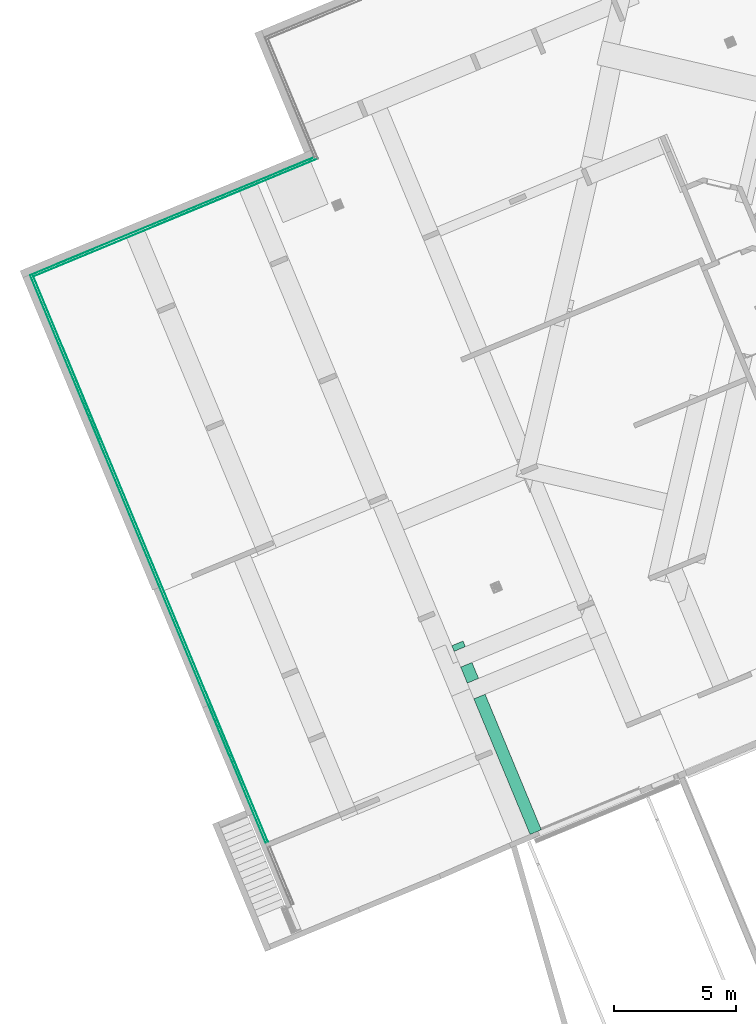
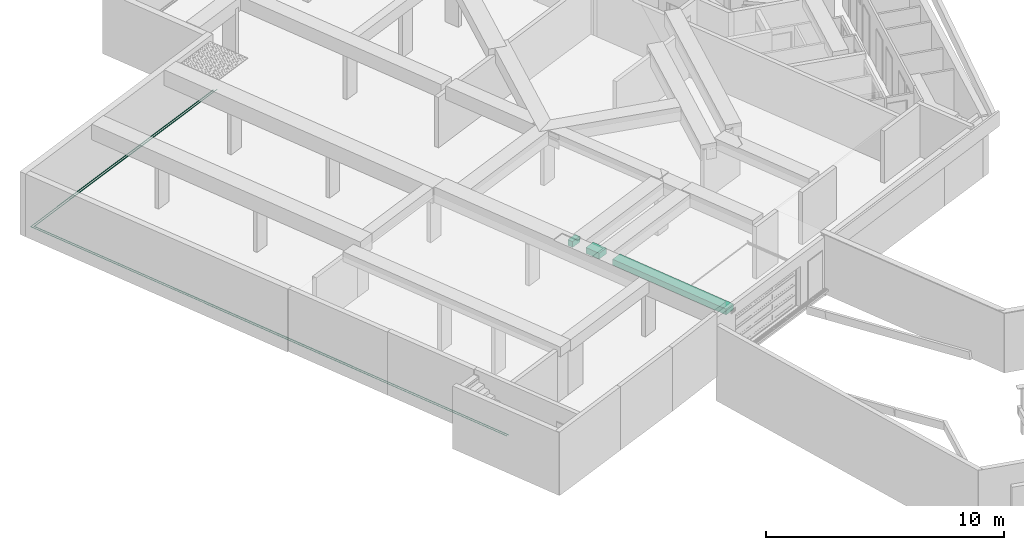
# One storey, part 16 of 20: 2 flow terminals, 1 distribution chamber element.
"""IFC2X3 building model written with IfcOpenShell, lengths in metres."""

from ifc_helpers import new_model, entity, si_unit, converted_unit, derived_unit, money_unit, direction, frame, origin_with_axes, place, context, subcontext, project, spatial, faceted_brep, material, type_object, element, save


model = new_model("IFC2X3")

# Units and contexts
model_context = context("Model", 3, precision=1e-05, world=origin_with_axes(), true_north=direction((0.0, 1.0)))
body_context = subcontext(model_context, "Body", "Model", "MODEL_VIEW")
ifc_project = project(units=[si_unit("LENGTHUNIT", "METRE"), si_unit("AREAUNIT", "SQUARE_METRE"), si_unit("VOLUMEUNIT", "CUBIC_METRE"), converted_unit("PLANEANGLEUNIT", "DEGREE", entity("IfcPlaneAngleMeasure", 0.0174532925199), si_unit("PLANEANGLEUNIT", "RADIAN"), dimensions=[0, 0, 0, 0, 0, 0, 0]), si_unit("SOLIDANGLEUNIT", "STERADIAN"), money_unit("EUR"), converted_unit("TIMEUNIT", "Year", entity("IfcTimeMeasure", 31556926.0), si_unit("TIMEUNIT", "SECOND"), dimensions=[0, 0, 1, 0, 0, 0, 0]), si_unit("MASSUNIT", "GRAM", prefix="KILO"), si_unit("THERMODYNAMICTEMPERATUREUNIT", "DEGREE_CELSIUS"), si_unit("LUMINOUSINTENSITYUNIT", "LUMEN"), si_unit("ENERGYUNIT", "JOULE", prefix="MEGA"), derived_unit("THERMALCONDUCTANCEUNIT", [(si_unit("POWERUNIT", "WATT"), 1), (si_unit("LENGTHUNIT", "METRE"), -1), (si_unit("THERMODYNAMICTEMPERATUREUNIT", "KELVIN"), -1)]), derived_unit("SPECIFICHEATCAPACITYUNIT", [(si_unit("ENERGYUNIT", "JOULE"), 1), (si_unit("MASSUNIT", "GRAM", prefix="KILO"), -1), (si_unit("THERMODYNAMICTEMPERATUREUNIT", "KELVIN"), -1)]), derived_unit("MASSDENSITYUNIT", [(si_unit("MASSUNIT", "GRAM", prefix="KILO"), 1), (si_unit("VOLUMEUNIT", "CUBIC_METRE"), -1)])], contexts=[model_context])

# Site, building, storey
site_placement = place(None, origin_with_axes())
site = spatial("IfcSite", under=ifc_project, at=site_placement, Name="Site", CompositionType="ELEMENT")
building_placement = place(site_placement, origin_with_axes())
building = spatial("IfcBuilding", under=site, at=building_placement, Name="Bâtiment", CompositionType="ELEMENT")
storey_placement = place(building_placement, frame((0.0, 0.0, -2.9), z_axis=(0.0, 0.0, 1.0), x_axis=(1.0, 0.0, 0.0)))
storey = spatial("IfcBuildingStorey", under=building, at=storey_placement, Name="Sous-sol", CompositionType="ELEMENT", Elevation=-2.9)

# Distribution chamber element
ifc_material_1 = material(Name="Finition int - Plaque type PROMAT 5cm")
distribution_chamber_element_type = type_object("IfcDistributionChamberElementType", Name="Finition int - Plaque type PROMAT 5cm 300", PredefinedType="FORMEDDUCT")
distribution_chamber_element_placement = place(storey_placement, frame((-20.0259368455, -27.9529865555, 2.5), z_axis=(0.0, 0.0, 1.0), x_axis=(1.0, 0.0, 0.0)))
element("IfcDistributionChamberElement", 1, at=distribution_chamber_element_placement, inside=storey, type_object=distribution_chamber_element_type, material=ifc_material_1, Name="Dalle_004", ObjectType="FORMEDDUCT", context=body_context, shape_type="Brep", body=[
    faceted_brep([(-3.20643771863, 7.73086635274, 0.0), (-3.11065960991, 7.49994100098, 0.0), (-2.6488087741, 7.69149727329, 0.0), (-2.74458688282, 7.92242262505, 0.0), (-3.20643771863, 7.73086635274, -0.3), (-3.11065960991, 7.49994100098, -0.3), (-2.6488087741, 7.69149727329, -0.3), (-2.74458688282, 7.92242262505, -0.3)], [[[0, 1, 2, 3]], [[4, 5, 1, 0]], [[5, 6, 2, 1]], [[3, 2, 6, 7]], [[4, 0, 3, 7]], [[7, 6, 5, 4]]]),
    faceted_brep([(0.460354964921, 0.195162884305, -0.3), (-1.84136116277, 5.74470456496, -0.3), (-1.84136116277, 5.74470456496, 0.0), (0.460354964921, 0.195162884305, 0.0), (-0.00149587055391, 0.00360661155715, -0.3), (-2.30321199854, 5.55314829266, -0.3), (-2.30321199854, 5.55314829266, 0.0), (-0.00149587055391, 0.00360661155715, 0.0), (0.0483661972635, 0.0242872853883, 0.0), (0.0497005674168, 0.0210700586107, 0.0), (0.325913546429, 0.138167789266, 0.0), (0.325476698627, 0.13922104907, 0.0), (0.325476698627, 0.13922104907, -0.2), (0.0483661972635, 0.0242872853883, -0.2), (0.0497005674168, 0.0210700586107, -0.2), (0.325913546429, 0.138167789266, -0.2)], [[[0, 1, 2, 3]], [[4, 5, 1, 0]], [[5, 6, 2, 1]], [[3, 2, 6, 7, 8, 9, 10, 11]], [[7, 4, 0, 3, 11, 12, 13, 8]], [[7, 6, 5, 4]], [[8, 13, 14, 9]], [[9, 14, 15, 10]], [[15, 12, 11, 10]], [[13, 12, 15, 14]]]),
    faceted_brep([(-2.109539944, 6.39129573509, -0.3), (-2.38062999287, 7.04490610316, -0.3), (-2.38062999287, 7.04490610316, 0.0), (-2.109539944, 6.39129573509, 0.0), (-2.57139077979, 6.19973946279, -0.3), (-2.84248082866, 6.85334983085, -0.3), (-2.84248082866, 6.85334983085, 0.0), (-2.57139077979, 6.19973946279, 0.0)], [[[0, 1, 2, 3]], [[4, 5, 1, 0]], [[5, 6, 2, 1]], [[3, 2, 6, 7]], [[4, 0, 3, 7]], [[7, 6, 5, 4]]]),
])

# Flow terminals
ifc_material_2 = material(Name="Finition sol - Carrelage")
waste_terminal_type = type_object("IfcWasteTerminalType", Name="Cunette 115 x 60", PredefinedType="GULLYSUMP")
flow_terminal_1_placement = place(storey_placement, frame((-28.8625536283, -0.217886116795, -0.04), z_axis=(0.0, 0.0, 1.0), x_axis=(-0.923701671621, -0.383112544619, 0.0)))
element("IfcFlowTerminal", 2, at=flow_terminal_1_placement, inside=storey, type_object=waste_terminal_type, material=ifc_material_2, Name="M_Ext-012", context=body_context, shape_type="Brep", body=[
    faceted_brep([(12.5982672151, 0.0138060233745, 0.0408658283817), (12.5982672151, 0.0143845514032, 0.04), (-0.00500001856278, 0.0143845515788, 0.04), (-0.0050000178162, 0.0138060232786, 0.0408658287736), (12.5982672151, 0.00500000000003, 0.0599999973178), (12.5982672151, 0.00500000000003, 0.04), (12.5982672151, 0.01, 0.0599999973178), (-0.00500000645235, 0.00500000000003, 0.04), (-0.00500000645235, 0.00500000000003, 0.0599999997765), (-0.00500001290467, 0.010000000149, 0.0599999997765)], [[[0, 1, 2, 3]], [[4, 5, 1, 0, 6]], [[5, 7, 2, 1]], [[3, 2, 7, 8, 9]], [[3, 9, 6, 0]], [[8, 7, 5, 4]], [[9, 8, 4, 6]]]),
    faceted_brep([(12.4970732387, 0.12, 0.0408658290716), (12.4976517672, 0.12, 0.04), (-0.105615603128, 0.12, 0.04), (-0.106194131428, 0.12, 0.0408658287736), (-0.110000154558, 0.12, 0.0600000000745), (12.4932672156, 0.12, 0.0600000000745), (12.4970732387, 0.106193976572, 0.0408658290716), (12.4976517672, 0.105615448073, 0.04), (-0.105615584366, 0.105615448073, 0.04), (-0.106194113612, 0.106193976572, 0.0408658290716), (-0.110000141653, 0.109999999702, 0.0600000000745), (12.4932672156, 0.109999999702, 0.0600000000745)], [[[0, 1, 2, 3, 4, 5]], [[6, 7, 1, 0]], [[7, 8, 2, 1]], [[3, 2, 8, 9]], [[9, 10, 4, 3]], [[4, 10, 11, 5]], [[5, 11, 6, 0]], [[9, 8, 7, 6]], [[10, 9, 6, 11]]]),
])
flow_terminal_2_placement = place(storey_placement, frame((-40.504212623, -5.04635589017, -0.04), z_axis=(0.0, 0.0, 1.0), x_axis=(0.383112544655, -0.923701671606, 0.0)))
element("IfcFlowTerminal", 3, at=flow_terminal_2_placement, inside=storey, type_object=waste_terminal_type, material=ifc_material_2, Name="M_Ext-013", context=body_context, shape_type="Brep", body=[
    faceted_brep([(25.1693250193, 0.00500000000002, 0.06), (25.1693250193, 0.00500000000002, 0.04), (25.1693250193, 0.0143845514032, 0.04), (25.1693250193, 0.0138060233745, 0.0408658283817), (25.1693250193, 0.01, 0.06), (0.0138060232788, 0.00500000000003, 0.0408658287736), (0.014384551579, 0.00500000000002, 0.04), (0.0100000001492, 0.00500000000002, 0.0599999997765), (0.0143845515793, 0.0143845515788, 0.04), (0.0138060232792, 0.0138060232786, 0.0408658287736), (0.0100000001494, 0.010000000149, 0.0599999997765)], [[[0, 1, 2, 3, 4]], [[5, 6, 1, 0, 7]], [[6, 8, 2, 1]], [[3, 2, 8, 9]], [[4, 3, 9, 10]], [[0, 4, 10, 7]], [[9, 8, 6, 5]], [[7, 10, 9, 5]]]),
    faceted_brep([(25.1693250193, 0.106193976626, 0.0408658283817), (25.1693250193, 0.105615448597, 0.04), (25.1693250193, 0.12, 0.04), (25.1693250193, 0.12, 0.06), (25.1693250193, 0.11, 0.06), (0.120000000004, 0.106193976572, 0.0408658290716), (0.120000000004, 0.105615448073, 0.04), (0.120000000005, 0.12, 0.04), (0.120000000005, 0.12, 0.0600000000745), (0.120000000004, 0.109999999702, 0.0600000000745)], [[[0, 1, 2, 3, 4]], [[5, 6, 1, 0]], [[6, 7, 2, 1]], [[3, 2, 7, 8]], [[4, 3, 8, 9]], [[0, 4, 9, 5]], [[8, 7, 6, 5, 9]]]),
])

save(model, "model.ifc")
